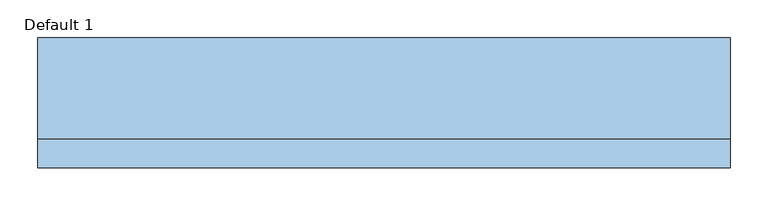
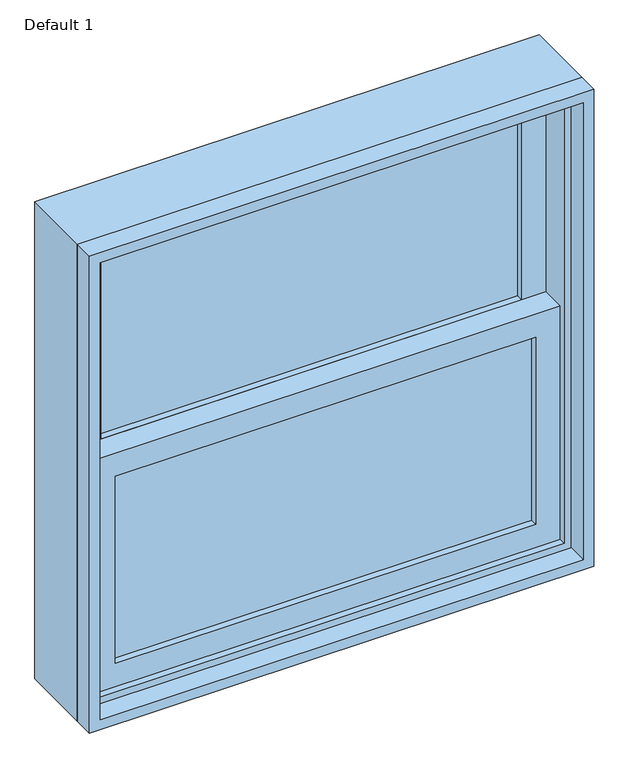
"""IFC4 building model written with IfcOpenShell, lengths in millimetres: window geometry, Planitar-Double-Hung-Single : Default 1."""

from ifc_helpers import new_model, si_unit, frame, origin, place, context, project, spatial, polyline, outline, extrude, source, transform, mapped, element, save


def default_1_3172ef4f(model_context):
    return source(origin(), model_context, "Body", "SweptSolid", [
        extrude(outline(polyline([(381.0, 6.35), (381.0, 0.0), (-381.0, 0.0), (-381.0, 6.35), (381.0, 6.35)])), frame((0.0, 0.0, 990.6), z_axis=(0.0, 0.0, 1.0), x_axis=(1.0, 0.0, 0.0)), (0.0, 0.0, 1.0), 358.775),
        extrude(outline(polyline([(-381.0, -6.35), (381.0, -6.35), (381.0, -12.7), (-381.0, -12.7), (-381.0, -6.35)])), frame((0.0, 0.0, 990.6), z_axis=(0.0, 0.0, 1.0), x_axis=(1.0, 0.0, 0.0)), (0.0, 0.0, 1.0), 358.775),
        extrude(outline(polyline([(381.0, 50.8), (381.0, 44.45), (-381.0, 44.45), (-381.0, 50.8), (381.0, 50.8)])), frame((0.0, 0.0, 1393.825), z_axis=(0.0, 0.0, 1.0), x_axis=(1.0, 0.0, 0.0)), (0.0, 0.0, 1.0), 358.775),
        extrude(outline(polyline([(-381.0, 38.1), (381.0, 38.1), (381.0, 31.75), (-381.0, 31.75), (-381.0, 38.1)])), frame((0.0, 0.0, 1393.825), z_axis=(0.0, 0.0, 1.0), x_axis=(1.0, 0.0, 0.0)), (0.0, 0.0, 1.0), 358.775),
        extrude(outline(polyline([(1393.825, -425.45), (946.15, -425.45), (946.15, 425.45), (1393.825, 425.45), (1393.825, -425.45)]), holes=[polyline([(1349.375, 381.0), (990.6, 381.0), (990.6, -381.0), (1349.375, -381.0), (1349.375, 381.0)])]), frame((0.0, -25.4, 0.0), z_axis=(0.0, 1.0, 0.0), x_axis=(0.0, 0.0, 1.0)), (0.0, 0.0, 1.0), 44.45),
        extrude(outline(polyline([(1797.05, -425.45), (1349.375, -425.45), (1349.375, 425.45), (1797.05, 425.45), (1797.05, -425.45)]), holes=[polyline([(1752.6, 381.0), (1393.825, 381.0), (1393.825, -381.0), (1752.6, -381.0), (1752.6, 381.0)])]), frame((0.0, 19.05, 0.0), z_axis=(0.0, 1.0, 0.0), x_axis=(0.0, 0.0, 1.0)), (0.0, 0.0, 1.0), 44.45),
        extrude(outline(polyline([(1828.8, -457.2), (914.4, -457.2), (914.4, 457.2), (1828.8, 457.2), (1828.8, -457.2)]), holes=[polyline([(1797.05, 425.45), (946.15, 425.45), (946.15, -425.45), (1797.05, -425.45), (1797.05, 425.45)])]), frame((0.0, -38.1, 0.0), z_axis=(0.0, 1.0, 0.0), x_axis=(0.0, 0.0, 1.0)), (0.0, 0.0, 1.0), 133.35),
        extrude(outline(polyline([(1828.8, 457.2), (1828.8, -457.2), (914.4, -457.2), (914.4, 457.2), (1828.8, 457.2)]), holes=[polyline([(1809.75, 438.15), (933.45, 438.15), (933.45, -438.15), (1809.75, -438.15), (1809.75, 438.15)])]), frame((0.0, -76.2, 0.0), z_axis=(0.0, 1.0, 0.0), x_axis=(0.0, 0.0, 1.0)), (0.0, 0.0, 1.0), 38.1),
    ])


if __name__ == "__main__":
    model = new_model("IFC4")
    model_context = context("Model", 3, world=origin())
    ifc_project = project(units=[si_unit("LENGTHUNIT", "METRE", prefix="MILLI")], contexts=[model_context])
    site = spatial("IfcSite", under=ifc_project)
    building = spatial("IfcBuilding", under=site)
    placement = place(None, origin())
    default_1_shape = default_1_3172ef4f(model_context)
    element("IfcWindow", 1, ObjectType="Planitar-Double-Hung-Single : Default 1", at=placement, inside=building, context=model_context, shape_type="MappedRepresentation", body=[
        mapped(default_1_shape, transform((0.0, 0.0, 0.0), x_axis=(1.0, 0.0, 0.0), y_axis=(0.0, 1.0, 0.0), z_axis=(0.0, 0.0, 1.0))),
    ])
    save(model, "model.ifc")
